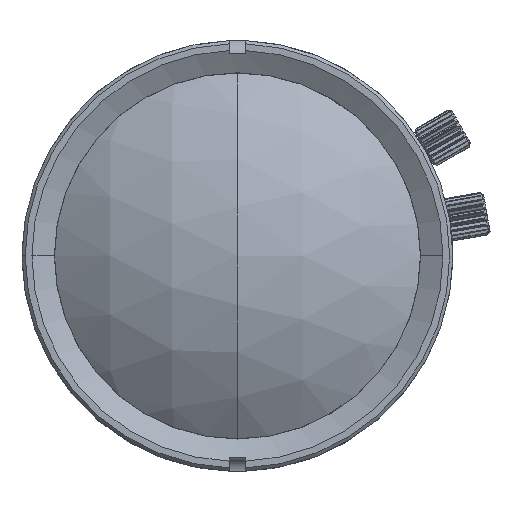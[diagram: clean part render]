
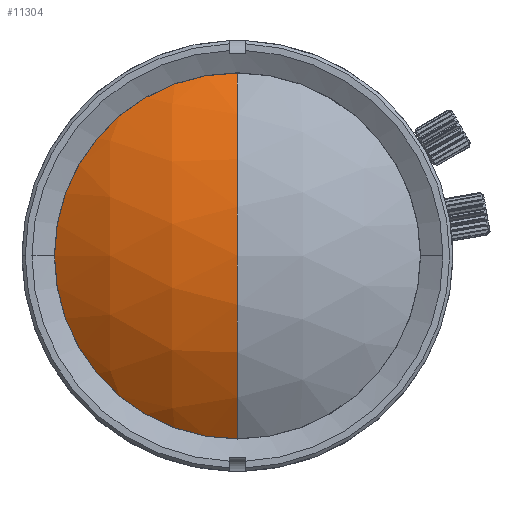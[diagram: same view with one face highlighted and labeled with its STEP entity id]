
A CAD part, top view. The second image highlights one B-rep face of the part: STEP entity #11304.
In plain terms, the highlighted spherical face has radius 27.9 mm.
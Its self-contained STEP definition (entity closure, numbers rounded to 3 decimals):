
#597 = AXIS2_PLACEMENT_3D ( 'NONE', #3397, #7063, #30135 ) ;
#728 = CARTESIAN_POINT ( 'NONE',  ( 0., 0., 31.74 ) ) ;
#795 = DIRECTION ( 'NONE',  ( 1., 0., 0. ) ) ;
#2646 = CARTESIAN_POINT ( 'NONE',  ( 0., 0., 25.974 ) ) ;
#3397 = CARTESIAN_POINT ( 'NONE',  ( 0., 0., 3.84 ) ) ;
#4410 = FACE_OUTER_BOUND ( 'NONE', #7370, .T. ) ;
#7063 = DIRECTION ( 'NONE',  ( -1., 0., 0. ) ) ;
#7370 = EDGE_LOOP ( 'NONE', ( #40195, #20959, #33870 ) ) ;
#7623 = CARTESIAN_POINT ( 'NONE',  ( 0., -16.985, 25.974 ) ) ;
#9159 = VERTEX_POINT ( 'NONE', #7623 ) ;
#9652 = SPHERICAL_SURFACE ( 'NONE', #28696, 27.9 ) ;
#11304 = ADVANCED_FACE ( 'NONE', ( #4410 ), #9652, .T. ) ;
#12176 = DIRECTION ( 'NONE',  ( -1., 0., 0. ) ) ;
#13122 = AXIS2_PLACEMENT_3D ( 'NONE', #37473, #795, #33822 ) ;
#14261 = CARTESIAN_POINT ( 'NONE',  ( 0., 0., 3.84 ) ) ;
#16118 = EDGE_CURVE ( 'NONE', #34614, #30621, #41308, .T. ) ;
#17485 = DIRECTION ( 'NONE',  ( 0., 1., 0. ) ) ;
#18234 = CIRCLE ( 'NONE', #25840, 16.985 ) ;
#20959 = ORIENTED_EDGE ( 'NONE', *, *, #23304, .T. ) ;
#23304 = EDGE_CURVE ( 'NONE', #9159, #30621, #39613, .T. ) ;
#23452 = EDGE_CURVE ( 'NONE', #9159, #34614, #18234, .T. ) ;
#25840 = AXIS2_PLACEMENT_3D ( 'NONE', #2646, #26175, #12176 ) ;
#26175 = DIRECTION ( 'NONE',  ( 0., 0., -1. ) ) ;
#28696 = AXIS2_PLACEMENT_3D ( 'NONE', #14261, #37610, #17485 ) ;
#29742 = CARTESIAN_POINT ( 'NONE',  ( 0., 16.985, 25.974 ) ) ;
#30135 = DIRECTION ( 'NONE',  ( 0., -1., 0. ) ) ;
#30621 = VERTEX_POINT ( 'NONE', #728 ) ;
#33822 = DIRECTION ( 'NONE',  ( 0., 0., -1. ) ) ;
#33870 = ORIENTED_EDGE ( 'NONE', *, *, #16118, .F. ) ;
#34614 = VERTEX_POINT ( 'NONE', #29742 ) ;
#37473 = CARTESIAN_POINT ( 'NONE',  ( 0., 0., 3.84 ) ) ;
#37610 = DIRECTION ( 'NONE',  ( -1., 0., 0. ) ) ;
#39613 = CIRCLE ( 'NONE', #597, 27.9 ) ;
#40195 = ORIENTED_EDGE ( 'NONE', *, *, #23452, .F. ) ;
#41308 = CIRCLE ( 'NONE', #13122, 27.9 ) ;
